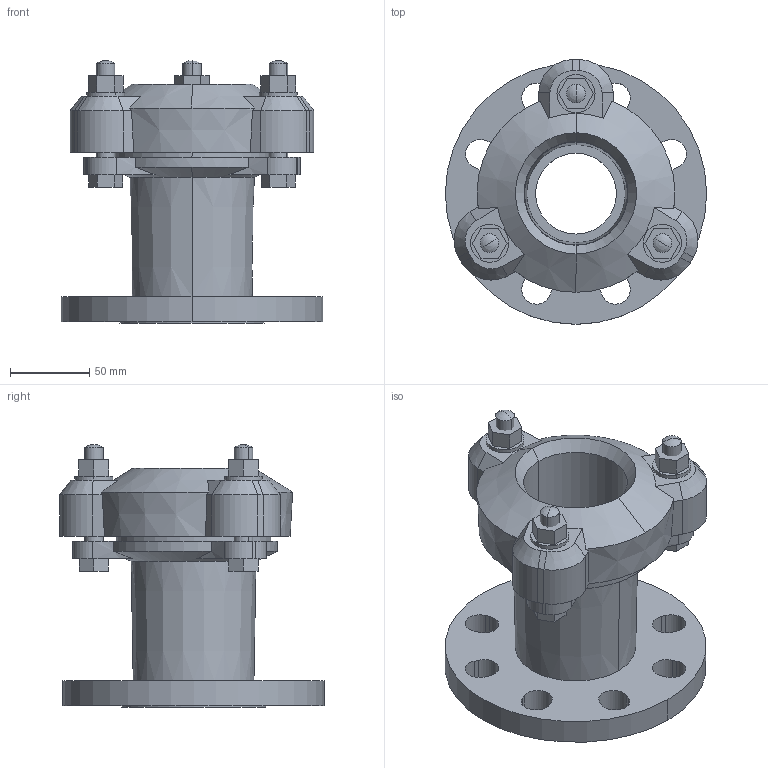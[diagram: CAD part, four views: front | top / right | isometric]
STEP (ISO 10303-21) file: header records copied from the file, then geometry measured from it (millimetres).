
FILE_DESCRIPTION((''),'2;1');
FILE_NAME('BIM_13199_1_ASM','2020-09-04T',('MReader'),(''),'CREO PARAMETRIC BY PTC INC, 2016130','CREO PARAMETRIC BY PTC INC, 2016130','');
FILE_SCHEMA(('CONFIG_CONTROL_DESIGN'));
Length unit declared in the file: millimetre
Products named in the file (4): BIM_12197_1_SLEEVE; _BIM_13230_2; BIM_12197_1; BIM_13199_1_ASM
Assembly tree (3 placements, depth 2):
  BIM_13199_1_ASM
    BIM_12197_1_SLEEVE
    _BIM_13230_2
    BIM_12197_1
Bounding box: 165 x 166.97 x 166 mm (x, y, z)
Volume: 928968.4 mm3; surface area: 168230.3 mm2
Topology: 3 solids, 3 shells, 182 faces, 473 edges, 303 vertices
Faces by surface type: plane 94, cylinder 59, cone 23, sphere 6
Entity records: 5727 total; most frequent: CARTESIAN_POINT 1054, DIRECTION 979, ORIENTED_EDGE 934, EDGE_CURVE 467, AXIS2_PLACEMENT_3D 348, VERTEX_POINT 303, VECTOR 283, LINE 283
